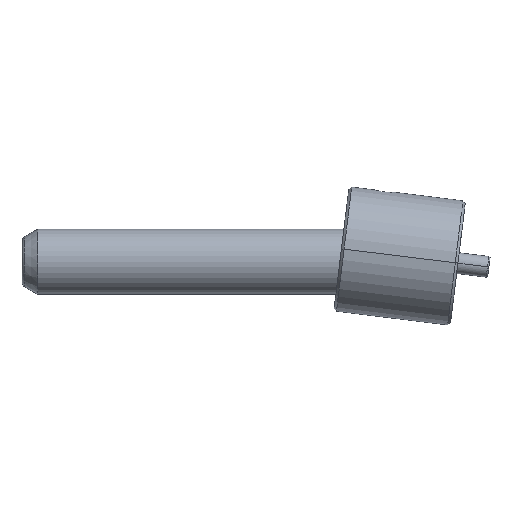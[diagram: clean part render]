
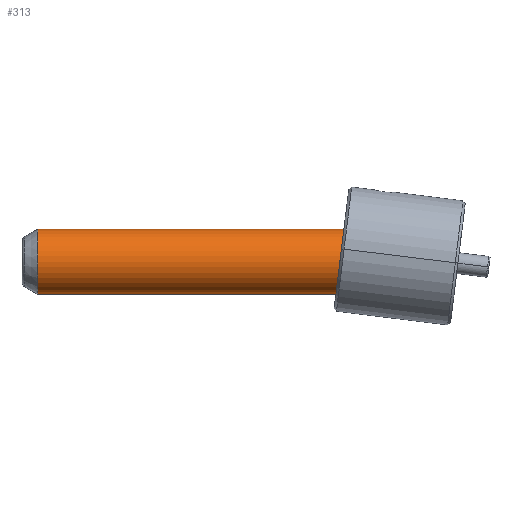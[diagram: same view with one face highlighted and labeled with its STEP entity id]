
A CAD part, left-side view. The second image highlights one B-rep face of the part: STEP entity #313.
In plain terms, the highlighted cylindrical face has radius 12.5 mm (diameter 25 mm), a partial arc.
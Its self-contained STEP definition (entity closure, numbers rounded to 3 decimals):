
#138=CARTESIAN_POINT('Vertex',(0.,-12.5,-1.)) ;
#145=CARTESIAN_POINT('Vertex',(0.,12.5,-1.)) ;
#165=CARTESIAN_POINT('Axis2P3D Location',(0.,0.,-1.)) ;
#182=CARTESIAN_POINT('Line Origine',(0.,12.5,7.975)) ;
#186=CARTESIAN_POINT('Vertex',(0.,12.5,-16.5)) ;
#189=CARTESIAN_POINT('Line Origine',(0.,-12.5,7.975)) ;
#193=CARTESIAN_POINT('Vertex',(0.,-12.5,-153.5)) ;
#212=CARTESIAN_POINT('Vertex',(0.,12.5,-153.5)) ;
#215=CARTESIAN_POINT('Line Origine',(0.,12.5,7.975)) ;
#219=CARTESIAN_POINT('Vertex',(0.,12.5,-24.5)) ;
#263=CARTESIAN_POINT('Axis2P3D Location',(0.,0.,7.975)) ;
#268=CARTESIAN_POINT('Axis2P3D Location',(0.,0.,-153.5)) ;
#274=CARTESIAN_POINT('Control Point',(0.,12.5,-16.5)) ;
#275=CARTESIAN_POINT('Control Point',(-0.383,12.5,-16.5)) ;
#276=CARTESIAN_POINT('Control Point',(-0.763,12.485,-16.545)) ;
#277=CARTESIAN_POINT('Control Point',(-1.142,12.456,-16.637)) ;
#278=CARTESIAN_POINT('Control Point',(-1.688,12.393,-16.843)) ;
#279=CARTESIAN_POINT('Control Point',(-2.187,12.309,-17.142)) ;
#280=CARTESIAN_POINT('Control Point',(-2.348,12.279,-17.252)) ;
#281=CARTESIAN_POINT('Control Point',(-2.656,12.217,-17.493)) ;
#282=CARTESIAN_POINT('Control Point',(-2.933,12.152,-17.77)) ;
#283=CARTESIAN_POINT('Control Point',(-3.064,12.12,-17.917)) ;
#284=CARTESIAN_POINT('Control Point',(-3.423,12.026,-18.377)) ;
#285=CARTESIAN_POINT('Control Point',(-3.695,11.943,-18.896)) ;
#286=CARTESIAN_POINT('Control Point',(-3.833,11.899,-19.262)) ;
#287=CARTESIAN_POINT('Control Point',(-3.993,11.845,-19.919)) ;
#288=CARTESIAN_POINT('Control Point',(-4.014,11.838,-20.589)) ;
#289=CARTESIAN_POINT('Control Point',(-3.998,11.843,-20.876)) ;
#290=CARTESIAN_POINT('Control Point',(-3.899,11.877,-21.543)) ;
#291=CARTESIAN_POINT('Control Point',(-3.662,11.953,-22.178)) ;
#292=CARTESIAN_POINT('Control Point',(-3.481,12.008,-22.528)) ;
#293=CARTESIAN_POINT('Control Point',(-3.15,12.101,-23.012)) ;
#294=CARTESIAN_POINT('Control Point',(-2.735,12.198,-23.428)) ;
#295=CARTESIAN_POINT('Control Point',(-2.589,12.23,-23.559)) ;
#296=CARTESIAN_POINT('Control Point',(-2.282,12.293,-23.8)) ;
#297=CARTESIAN_POINT('Control Point',(-1.948,12.349,-24.001)) ;
#298=CARTESIAN_POINT('Control Point',(-1.775,12.375,-24.092)) ;
#299=CARTESIAN_POINT('Control Point',(-1.333,12.434,-24.291)) ;
#300=CARTESIAN_POINT('Control Point',(-0.866,12.475,-24.421)) ;
#301=CARTESIAN_POINT('Control Point',(-0.577,12.492,-24.474)) ;
#302=CARTESIAN_POINT('Control Point',(-0.289,12.5,-24.5)) ;
#303=CARTESIAN_POINT('Control Point',(0.,12.5,-24.5)) ;
#166=DIRECTION('Axis2P3D Direction',(0.,0.,-1.)) ;
#183=DIRECTION('Vector Direction',(0.,0.,-1.)) ;
#190=DIRECTION('Vector Direction',(0.,0.,-1.)) ;
#216=DIRECTION('Vector Direction',(0.,0.,-1.)) ;
#264=DIRECTION('Axis2P3D Direction',(0.,0.,-1.)) ;
#265=DIRECTION('Axis2P3D XDirection',(0.,-1.,0.)) ;
#269=DIRECTION('Axis2P3D Direction',(0.,0.,-1.)) ;
#167=AXIS2_PLACEMENT_3D('Circle Axis2P3D',#165,#166,$) ;
#266=AXIS2_PLACEMENT_3D('Cylinder Axis2P3D',#263,#264,#265) ;
#270=AXIS2_PLACEMENT_3D('Circle Axis2P3D',#268,#269,$) ;
#306=ORIENTED_EDGE('',*,*,#221,.F.) ;
#307=ORIENTED_EDGE('',*,*,#272,.T.) ;
#308=ORIENTED_EDGE('',*,*,#195,.T.) ;
#309=ORIENTED_EDGE('',*,*,#169,.F.) ;
#310=ORIENTED_EDGE('',*,*,#188,.F.) ;
#311=ORIENTED_EDGE('',*,*,#304,.T.) ;
#184=VECTOR('Line Direction',#183,1.) ;
#191=VECTOR('Line Direction',#190,1.) ;
#217=VECTOR('Line Direction',#216,1.) ;
#313=ADVANCED_FACE('MANIFOLD_SOLID_BREP #389',(#312),#267,.T.) ;
#273=B_SPLINE_CURVE_WITH_KNOTS('',5,(#274,#275,#276,#277,#278,#279,#280,#281,#282,#283,#284,#285,#286,#287,#288,#289,#290,#291,#292,#293,#294,#295,#296,#297,#298,#299,#300,#301,#302,#303),.UNSPECIFIED.,.F.,.U.,(6,3,3,3,3,3,3,3,3,6),(0.,2.741,4.122,5.507,8.255,10.303,13.058,14.443,15.821,17.892),.UNSPECIFIED.) ;
#168=CIRCLE('generated circle',#167,12.5) ;
#271=CIRCLE('generated circle',#270,12.5) ;
#267=CYLINDRICAL_SURFACE('generated cylinder',#266,12.5) ;
#169=EDGE_CURVE('',#146,#139,#168,.F.) ;
#188=EDGE_CURVE('',#187,#146,#185,.F.) ;
#195=EDGE_CURVE('',#194,#139,#192,.F.) ;
#221=EDGE_CURVE('',#213,#220,#218,.F.) ;
#272=EDGE_CURVE('',#213,#194,#271,.F.) ;
#304=EDGE_CURVE('',#187,#220,#273,.T.) ;
#305=EDGE_LOOP('',(#306,#307,#308,#309,#310,#311)) ;
#312=FACE_OUTER_BOUND('',#305,.T.) ;
#185=LINE('Line',#182,#184) ;
#192=LINE('Line',#189,#191) ;
#218=LINE('Line',#215,#217) ;
#139=VERTEX_POINT('',#138) ;
#146=VERTEX_POINT('',#145) ;
#187=VERTEX_POINT('',#186) ;
#194=VERTEX_POINT('',#193) ;
#213=VERTEX_POINT('',#212) ;
#220=VERTEX_POINT('',#219) ;
